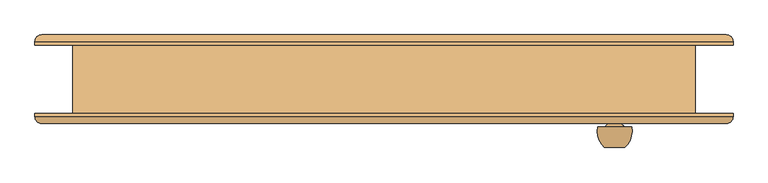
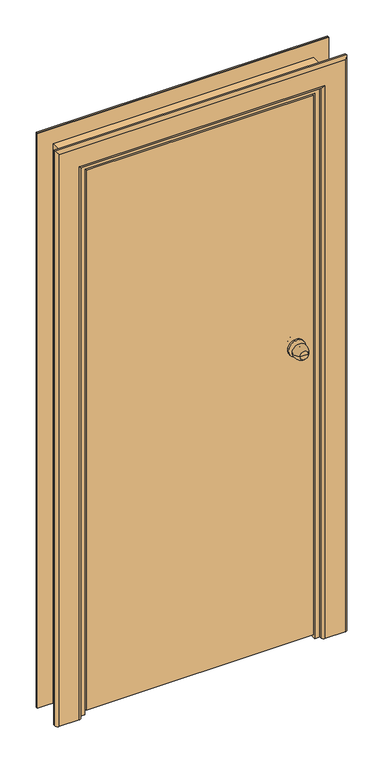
"""IFC4 building model written with IfcOpenShell, lengths in millimetres: door geometry, Внутренняя дверь 1-Навесная - 6629-88 : ДГ 21-9Л  ГОСТ 6629-88."""

import ifcopenshell
import ifcopenshell.guid

model = None  # the IFC model being written
_history = None  # IfcOwnerHistory: only IFC2X3 demands one
_inside = {}  # id of a spatial element -> (the spatial element, [elements in it])
_under = {}  # id of a project, library or spatial element -> (it, [spatial elements below it])
_declared = {}  # id of a project -> (the project, [libraries it declares])
_typed = {}  # id of a type object -> (the type object, [elements of that type])
_made_of = {}  # id of a material, layer set ... -> (it, [elements and type objects made of it])


def new_model(schema):
    """Start an empty IFC model of exactly this schema.

    Asked for "IFC4X3", IfcOpenShell would pick the latest addendum, in which some entities
    have other attributes; the version numbers below select the first issue.
    IFC2X3 requires an IfcOwnerHistory on every rooted entity: one is made here for all.
    """
    global model, _history
    if schema == "IFC4X3":
        model = ifcopenshell.file(schema_version=(4, 3, 0, 0))
    else:
        model = ifcopenshell.file(schema=schema)
    _inside.clear()
    _under.clear()
    _declared.clear()
    _typed.clear()
    _made_of.clear()
    _history = None
    if model.schema == "IFC2X3":
        org = make("IfcOrganization", Name="unknown")
        user = make(
            "IfcPersonAndOrganization",
            ThePerson=make("IfcPerson", FamilyName="unknown"),
            TheOrganization=org,
        )
        app = make(
            "IfcApplication",
            ApplicationDeveloper=org,
            Version="unknown",
            ApplicationFullName="unknown",
            ApplicationIdentifier="unknown",
        )
        _history = make(
            "IfcOwnerHistory",
            OwningUser=user,
            OwningApplication=app,
            ChangeAction="ADDED",
            CreationDate=0,
        )
    return model


def make(cls, **values):
    """One entity of the class cls with the attributes given. An attribute that is None is left unset."""
    return model.create_entity(
        cls, **{name: value for name, value in values.items() if value is not None}
    )


def rooted(cls, **values):
    """An entity with a GlobalId (a new one), such as an element, a storey or a relation."""
    return make(cls, GlobalId=ifcopenshell.guid.new(), OwnerHistory=_history, **values)


def si_unit(unit_type, name, prefix=None):
    """IfcSIUnit, for example si_unit("LENGTHUNIT", "METRE", prefix="MILLI")."""
    return make("IfcSIUnit", UnitType=unit_type, Prefix=prefix, Name=name)


def assignment(units):
    """IfcUnitAssignment: the units of a project."""
    return None if units is None else make("IfcUnitAssignment", Units=units)


def point(xyz):
    """IfcCartesianPoint."""
    return None if xyz is None else make("IfcCartesianPoint", Coordinates=xyz)


def direction(xyz):
    """IfcDirection."""
    return None if xyz is None else make("IfcDirection", DirectionRatios=xyz)


def frame(location, z_axis=None, x_axis=None):
    """IfcAxis2Placement3D, a coordinate frame: its origin and axes. An axis left out is left unset."""
    return make(
        "IfcAxis2Placement3D",
        Location=point(location),
        Axis=direction(z_axis),
        RefDirection=direction(x_axis),
    )


def origin():
    """The frame at (0, 0, 0) with its axes left unset."""
    return frame((0.0, 0.0, 0.0))


def place(relative_to, where):
    """IfcLocalPlacement: puts the frame where relative to a parent placement (None: the world)."""
    return make(
        "IfcLocalPlacement", PlacementRelTo=relative_to, RelativePlacement=where
    )


def context(
    kind, dimensions, precision=None, world=None, true_north=None, identifier=None
):
    """IfcGeometricRepresentationContext, for example the 3D "Model" context."""
    return make(
        "IfcGeometricRepresentationContext",
        ContextIdentifier=identifier,
        ContextType=kind,
        CoordinateSpaceDimension=dimensions,
        Precision=precision,
        WorldCoordinateSystem=world,
        TrueNorth=true_north,
    )


def project(units=None, contexts=None):
    """IfcProject with its units and contexts."""
    return rooted(
        "IfcProject",
        Name="project",
        RepresentationContexts=contexts,
        UnitsInContext=assignment(units),
    )


def spatial(cls, under=None, at=None, **own):
    """A site, building, storey or space (cls), placed at a placement, below another one or the project."""
    s = rooted(cls, ObjectPlacement=at, **own)
    if under is not None:
        _under.setdefault(under.id(), (under, []))[1].append(s)
    return s


def polyline(points):
    """IfcPolyline through the points."""
    return make("IfcPolyline", Points=[point(p) for p in points])


def circle_curve(where, radius):
    """IfcCircle in the frame where."""
    return make("IfcCircle", Position=where, Radius=radius)


def ellipse_curve(where, semi_axis1, semi_axis2):
    """IfcEllipse in the frame where."""
    return make(
        "IfcEllipse", Position=where, SemiAxis1=semi_axis1, SemiAxis2=semi_axis2
    )


def trimmed(basis, trim1, trim2, sense, master):
    """IfcTrimmedCurve: the piece of a basis curve between two trims."""
    return make(
        "IfcTrimmedCurve",
        BasisCurve=basis,
        Trim1=trim1,
        Trim2=trim2,
        SenseAgreement=sense,
        MasterRepresentation=master,
    )


def outline(outer, holes=None, kind="AREA"):
    """IfcArbitraryClosedProfileDef: a profile drawn as a closed curve; with holes, ...WithVoids."""
    if holes is None:
        return make("IfcArbitraryClosedProfileDef", ProfileType=kind, OuterCurve=outer)
    return make(
        "IfcArbitraryProfileDefWithVoids",
        ProfileType=kind,
        OuterCurve=outer,
        InnerCurves=holes,
    )


def extrude(swept, where, along, depth):
    """IfcExtrudedAreaSolid: the profile swept, set in the frame where, extruded along a direction by depth."""
    return make(
        "IfcExtrudedAreaSolid",
        SweptArea=swept,
        Position=where,
        ExtrudedDirection=direction(along),
        Depth=depth,
    )


def faces_of(points, faces, orient=None, outer=None):
    """IfcFace entities. A face is a list of loops; a loop is a list of indices into points, from 0.

    orient and outer hold one flag for each loop. By default every Orientation is true, the
    first loop of a face is its IfcFaceOuterBound and the others are IfcFaceBound.
    """
    made = []
    for i, loops in enumerate(faces):
        bounds = []
        for j, loop in enumerate(loops):
            is_outer = j == 0 if outer is None else outer[i][j]
            bounds.append(
                make(
                    "IfcFaceOuterBound" if is_outer else "IfcFaceBound",
                    Bound=make("IfcPolyLoop", Polygon=[points[k] for k in loop]),
                    Orientation=True if orient is None else orient[i][j],
                )
            )
        made.append(make("IfcFace", Bounds=bounds))
    return made


def faceted_brep(points, faces, orient=None, outer=None, voids=None):
    """IfcFacetedBrep: a solid bounded by flat faces; with voids (closed shells), ...WithVoids."""
    shared = [point(p) for p in points]
    hull = make("IfcClosedShell", CfsFaces=faces_of(shared, faces, orient, outer))
    if voids is None:
        return make("IfcFacetedBrep", Outer=hull)
    return make(
        "IfcFacetedBrepWithVoids",
        Outer=hull,
        Voids=[
            make(cls, CfsFaces=faces_of(shared, fs, o, b)) for cls, fs, o, b in voids
        ],
    )


def shape(context_of_items, identifier, shape_type, items):
    """IfcShapeRepresentation: the items that make up one representation, for example the "Body"."""
    return make(
        "IfcShapeRepresentation",
        ContextOfItems=context_of_items,
        RepresentationIdentifier=identifier,
        RepresentationType=shape_type,
        Items=items,
    )


def source(mapping_origin, context_of_items, identifier, shape_type, items):
    """IfcRepresentationMap: a shape defined once, which mapped items show again and again."""
    return make(
        "IfcRepresentationMap",
        MappingOrigin=mapping_origin,
        MappedRepresentation=shape(context_of_items, identifier, shape_type, items),
    )


def transform(
    local_origin,
    x_axis=None,
    y_axis=None,
    z_axis=None,
    scale=None,
    scale2=None,
    scale3=None,
    uniform=True,
):
    """IfcCartesianTransformationOperator3D, or its non-uniform kind. x_axis, y_axis, z_axis: its Axis1, 2, 3."""
    if uniform:
        return make(
            "IfcCartesianTransformationOperator3D",
            Axis1=direction(x_axis),
            Axis2=direction(y_axis),
            LocalOrigin=point(local_origin),
            Scale=scale,
            Axis3=direction(z_axis),
        )
    return make(
        "IfcCartesianTransformationOperator3DnonUniform",
        Axis1=direction(x_axis),
        Axis2=direction(y_axis),
        LocalOrigin=point(local_origin),
        Scale=scale,
        Axis3=direction(z_axis),
        Scale2=scale2,
        Scale3=scale3,
    )


def mapped(mapping_source, mapping_target):
    """IfcMappedItem: shows the shape of a source again, moved by a transform."""
    return make(
        "IfcMappedItem", MappingSource=mapping_source, MappingTarget=mapping_target
    )


def made_of(thing, what):
    """Note that an element or type object is made of a material, layer set ...; save() writes the relation."""
    if what is not None:
        _made_of.setdefault(what.id(), (what, []))[1].append(thing)
    return thing


def element(
    cls,
    number,
    at=None,
    inside=None,
    cuts=None,
    type_object=None,
    material=None,
    context=None,
    identifier="Body",
    shape_type=None,
    held_by="IfcProductDefinitionShape",
    body=None,
    shapes=None,
    **own,
):
    """One element of the class cls, such as IfcWall. Its Tag is "e" and its number.

    at: its placement. inside: the storey or other place that contains it. cuts: it is an
    opening in that element (IfcRelVoidsElement). A single representation is given by context,
    identifier, shape_type and body (its items); several are given by shapes. held_by: the class
    of the entity that holds the representations. save() writes the other relations.
    """
    e = rooted(cls, Tag="e%d" % number, ObjectPlacement=at, **own)
    if body is not None:
        shapes = [shape(context, identifier, shape_type, body)]
    if shapes is not None:
        e.Representation = make(held_by, Representations=shapes)
    if inside is not None:
        _inside.setdefault(inside.id(), (inside, []))[1].append(e)
    if cuts is not None:
        rooted(
            "IfcRelVoidsElement", RelatingBuildingElement=cuts, RelatedOpeningElement=e
        )
    if type_object is not None:
        _typed.setdefault(type_object.id(), (type_object, []))[1].append(e)
    return made_of(e, material)


def aggregate(whole, parts):
    """IfcRelAggregates: a whole, such as a stair, and the parts it consists of."""
    return rooted("IfcRelAggregates", RelatingObject=whole, RelatedObjects=parts)


def save(model, path):
    """Write the relations noted so far, then the file.

    IfcRelAggregates (storeys below a building ...), IfcRelContainedInSpatialStructure (elements
    in a storey), IfcRelDefinesByType, IfcRelAssociatesMaterial and IfcRelDeclares: one each for
    every whole, place, type object, material and project.
    """
    for whole, parts in _under.values():
        aggregate(whole, parts)
    for where, things in _inside.values():
        rooted(
            "IfcRelContainedInSpatialStructure",
            RelatedElements=things,
            RelatingStructure=where,
        )
    for kind, things in _typed.values():
        rooted("IfcRelDefinesByType", RelatedObjects=things, RelatingType=kind)
    for what, things in _made_of.values():
        rooted("IfcRelAssociatesMaterial", RelatedObjects=things, RelatingMaterial=what)
    for by, libraries in _declared.values():
        rooted("IfcRelDeclares", RelatingContext=by, RelatedDefinitions=libraries)
    model.write(path)


def plane_surface(at):
    """IfcPlane: the flat surface through the origin of the frame at, square to its z axis."""
    return make("IfcPlane", Position=at)


def cylinder_surface(at, radius):
    """IfcCylindricalSurface: all points at the distance radius from the z axis of the frame at."""
    return make("IfcCylindricalSurface", Position=at, Radius=radius)


def revolved_surface(curve, axis_point, axis_direction):
    """IfcSurfaceOfRevolution: the curve turned about the line through axis_point along axis_direction."""
    return make(
        "IfcSurfaceOfRevolution",
        SweptCurve=make("IfcArbitraryOpenProfileDef", ProfileType="CURVE", Curve=curve),
        AxisPosition=make("IfcAxis1Placement", Location=point(axis_point), Axis=direction(axis_direction)),
    )


def advanced_brep(points, edges, surfaces, faces):
    """IfcAdvancedBrep: a solid bounded by faces that lie on surfaces and meet in shared edges.

    An edge is (start, end): straight between two places in points (the first is 0);
    or (start, end, curve); or (start, end, curve, False) where it runs against its curve.
    A face is (place in surfaces, loops), or (place, loops, False) where it looks against
    its surface's normal. A loop lists edges by number (the first is 1), with a minus sign
    where the edge is run from its end to its start. The first loop is the outer one.
    """
    corners = [point(p) for p in points]
    vertices = [make("IfcVertexPoint", VertexGeometry=c) for c in corners]
    made = []
    for start, end, *more in edges:
        made.append(
            make(
                "IfcEdgeCurve",
                EdgeStart=vertices[start],
                EdgeEnd=vertices[end],
                EdgeGeometry=more[0] if more else make("IfcPolyline", Points=[corners[start], corners[end]]),
                SameSense=more[1] if len(more) > 1 else True,
            )
        )
    hull = []
    for where, loops, *sense in faces:
        bounds = []
        for j, loop in enumerate(loops):
            ring = [make("IfcOrientedEdge", EdgeElement=made[abs(k) - 1], Orientation=k > 0) for k in loop]
            bounds.append(
                make(
                    "IfcFaceOuterBound" if j == 0 else "IfcFaceBound",
                    Bound=make("IfcEdgeLoop", EdgeList=ring),
                    Orientation=True,
                )
            )
        hull.append(make("IfcAdvancedFace", Bounds=bounds, FaceSurface=surfaces[where], SameSense=sense[0] if sense else True))
    return make("IfcAdvancedBrep", Outer=make("IfcClosedShell", CfsFaces=hull))


def door_70e842ad(model_context):
    return source(origin(), model_context, "Body", "SolidModel", [
        advanced_brep(
        [(352.0, -100.0, 1100.0), (322.0, -100.0, 1100.0), (337.0, -100.0, 1100.0), (362.0, -70.0, 1100.0), (312.0, -70.0, 1100.0), (355.0, -70.0, 1100.0), (319.0, -70.0, 1100.0), (347.0, -62.0, 1100.0), (327.0, -62.0, 1100.0), (347.0, -56.0, 1100.0), (327.0, -56.0, 1100.0), (307.0, -56.0, 1100.0), (367.0, -56.0, 1100.0), (307.0, -50.0, 1100.0), (367.0, -50.0, 1100.0)],
        [
            (0, 1, circle_curve(frame((337.0, -100.0, 1100.0), z_axis=(0.0, -1.0, 0.0), x_axis=(-1.0, 0.0, 0.0)), 15.0)),
            (1, 2),
            (2, 0),
            (1, 0, circle_curve(frame((337.0, -100.0, 1100.0), z_axis=(0.0, -1.0, 0.0), x_axis=(-1.0, 0.0, 0.0)), 15.0)),
            (0, 3, circle_curve(frame((327.3773735, -75.1257912, 1100.0), z_axis=(0.0, 0.0, 1.0), x_axis=(-1.0, 0.0, 0.0)), 35.0)),
            (3, 4, circle_curve(frame((337.0, -70.0, 1100.0), z_axis=(0.0, -1.0, 0.0), x_axis=(-1.0, 0.0, 0.0)), 25.0)),
            (4, 1, circle_curve(frame((346.6226265, -75.1257912, 1100.0), z_axis=(0.0, 0.0, 1.0), x_axis=(1.0, 0.0, 0.0)), 35.0)),
            (4, 3, circle_curve(frame((337.0, -70.0, 1100.0), z_axis=(0.0, -1.0, 0.0), x_axis=(-1.0, 0.0, 0.0)), 25.0)),
            (3, 5),
            (5, 6, circle_curve(frame((337.0, -70.0, 1100.0), z_axis=(0.0, -1.0, 0.0), x_axis=(-1.0, 0.0, 0.0)), 18.0)),
            (6, 4),
            (6, 5, circle_curve(frame((337.0, -70.0, 1100.0), z_axis=(0.0, -1.0, 0.0), x_axis=(-1.0, 0.0, 0.0)), 18.0)),
            (5, 7, circle_curve(frame((355.0, -62.0, 1100.0), z_axis=(0.0, 0.0, -1.0), x_axis=(-1.0, 0.0, 0.0)), 8.0)),
            (7, 8, circle_curve(frame((337.0, -62.0, 1100.0), z_axis=(0.0, -1.0, 0.0), x_axis=(-1.0, 0.0, 0.0)), 10.0)),
            (8, 6, circle_curve(frame((319.0, -62.0, 1100.0), z_axis=(0.0, 0.0, -1.0), x_axis=(1.0, 0.0, 0.0)), 8.0)),
            (8, 7, circle_curve(frame((337.0, -62.0, 1100.0), z_axis=(0.0, -1.0, 0.0), x_axis=(-1.0, 0.0, 0.0)), 10.0)),
            (7, 9),
            (9, 10, circle_curve(frame((337.0, -56.0, 1100.0), z_axis=(0.0, -1.0, 0.0), x_axis=(-1.0, 0.0, 0.0)), 10.0)),
            (10, 8),
            (10, 9, circle_curve(frame((337.0, -56.0, 1100.0), z_axis=(0.0, -1.0, 0.0), x_axis=(-1.0, 0.0, 0.0)), 10.0)),
            (11, 12, circle_curve(frame((337.0, -56.0, 1100.0), z_axis=(0.0, -1.0, 0.0), x_axis=(1.0, 0.0, 0.0)), 30.0)),
            (12, 11, circle_curve(frame((337.0, -56.0, 1100.0), z_axis=(0.0, -1.0, 0.0), x_axis=(1.0, 0.0, 0.0)), 30.0)),
            (13, 14, circle_curve(frame((337.0, -50.0, 1100.0), z_axis=(0.0, 1.0, 0.0), x_axis=(1.0, 0.0, 0.0)), 30.0)),
            (14, 13, circle_curve(frame((337.0, -50.0, 1100.0), z_axis=(0.0, 1.0, 0.0), x_axis=(1.0, 0.0, 0.0)), 30.0)),
            (11, 13),
            (14, 12),
        ],
        [
            plane_surface(frame((337.0, -100.0, 1100.0), z_axis=(0.0, -1.0, 0.0), x_axis=(-1.0, 0.0, 0.0))),
            revolved_surface(trimmed(ellipse_curve(frame((346.6226265, -75.1257912, 1100.0), z_axis=(0.0, 0.0, -1.0), x_axis=(1.0, 0.0, 0.0)), 35.0, 35.0), [point((322.0, -100.0, 1100.0))], [point((312.0, -70.0, 1100.0))], True, "CARTESIAN"), (337.0, -130.0, 1100.0), (0.0, 1.0, 0.0)),
            plane_surface(frame((337.0, -70.0, 1100.0), z_axis=(0.0, 1.0, 0.0), x_axis=(-1.0, 0.0, 0.0))),
            revolved_surface(trimmed(ellipse_curve(frame((319.0, -62.0, 1100.0), z_axis=(0.0, 0.0, 1.0), x_axis=(1.0, 0.0, 0.0)), 8.0, 8.0), [point((319.0, -70.0, 1100.0))], [point((327.0, -62.0, 1100.0))], True, "CARTESIAN"), (337.0, -130.0, 1100.0), (0.0, 1.0, 0.0)),
            cylinder_surface(frame((337.0, -130.0, 1100.0), z_axis=(0.0, 1.0, 0.0), x_axis=(-1.0, 0.0, 0.0)), 10.0),
            plane_surface(frame((367.0, -56.0, 1100.0), z_axis=(0.0, -1.0, 0.0), x_axis=(0.0, 0.0, 1.0))),
            plane_surface(frame((367.0, -50.0, 1100.0), z_axis=(0.0, 1.0, 0.0), x_axis=(0.0, 0.0, -1.0))),
            cylinder_surface(frame((337.0, -50.0, 1100.0), z_axis=(0.0, -1.0, 0.0), x_axis=(1.0, 0.0, 0.0)), 30.0),
        ],
        [
            (0, [[1, 2, 3]]),
            (0, [[-2, 4, -3]]),
            (1, [[-1, 5, 6, 7]]),
            (1, [[-4, -7, 8, -5]]),
            (2, [[-6, 9, 10, 11]]),
            (2, [[-8, -11, 12, -9]]),
            (3, [[-10, 13, 14, 15]]),
            (3, [[-12, -15, 16, -13]]),
            (4, [[-14, 17, 18, 19]]),
            (4, [[-16, -19, 20, -17]]),
            (5, [[21, 22], [-18, -20]]),
            (6, [[23, 24]]),
            (7, [[-21, 25, -24, 26]]),
            (7, [[-22, -26, -23, -25]]),
        ],
    ),
        advanced_brep(
        [(322.0, 37.0, 1100.0), (352.0, 37.0, 1100.0), (337.0, 37.0, 1100.0), (312.0, 7.0, 1100.0), (362.0, 7.0, 1100.0), (319.0, 7.0, 1100.0), (355.0, 7.0, 1100.0), (327.0, -1.0, 1100.0), (347.0, -1.0, 1100.0), (327.0, -7.0, 1100.0), (347.0, -7.0, 1100.0), (367.0, -7.0, 1100.0), (307.0, -7.0, 1100.0), (367.0, -13.0, 1100.0), (307.0, -13.0, 1100.0)],
        [
            (0, 1, circle_curve(frame((337.0, 37.0, 1100.0), z_axis=(0.0, 1.0, 0.0), x_axis=(1.0, 0.0, 0.0)), 15.0)),
            (1, 2),
            (2, 0),
            (1, 0, circle_curve(frame((337.0, 37.0, 1100.0), z_axis=(0.0, 1.0, 0.0), x_axis=(1.0, 0.0, 0.0)), 15.0)),
            (0, 3, circle_curve(frame((346.6226265, 12.1257912, 1100.0), z_axis=(0.0, 0.0, 1.0), x_axis=(1.0, 0.0, 0.0)), 35.0)),
            (3, 4, circle_curve(frame((337.0, 7.0, 1100.0), z_axis=(0.0, 1.0, 0.0), x_axis=(1.0, 0.0, 0.0)), 25.0)),
            (4, 1, circle_curve(frame((327.3773735, 12.1257912, 1100.0), z_axis=(0.0, 0.0, 1.0), x_axis=(-1.0, 0.0, 0.0)), 35.0)),
            (4, 3, circle_curve(frame((337.0, 7.0, 1100.0), z_axis=(0.0, 1.0, 0.0), x_axis=(1.0, 0.0, 0.0)), 25.0)),
            (3, 5),
            (5, 6, circle_curve(frame((337.0, 7.0, 1100.0), z_axis=(0.0, 1.0, 0.0), x_axis=(1.0, 0.0, 0.0)), 18.0)),
            (6, 4),
            (6, 5, circle_curve(frame((337.0, 7.0, 1100.0), z_axis=(0.0, 1.0, 0.0), x_axis=(1.0, 0.0, 0.0)), 18.0)),
            (5, 7, circle_curve(frame((319.0, -1.0, 1100.0), z_axis=(0.0, 0.0, -1.0), x_axis=(1.0, 0.0, 0.0)), 8.0)),
            (7, 8, circle_curve(frame((337.0, -1.0, 1100.0), z_axis=(0.0, 1.0, 0.0), x_axis=(1.0, 0.0, 0.0)), 10.0)),
            (8, 6, circle_curve(frame((355.0, -1.0, 1100.0), z_axis=(0.0, 0.0, -1.0), x_axis=(-1.0, 0.0, 0.0)), 8.0)),
            (8, 7, circle_curve(frame((337.0, -1.0, 1100.0), z_axis=(0.0, 1.0, 0.0), x_axis=(1.0, 0.0, 0.0)), 10.0)),
            (7, 9),
            (9, 10, circle_curve(frame((337.0, -7.0, 1100.0), z_axis=(0.0, 1.0, 0.0), x_axis=(1.0, 0.0, 0.0)), 10.0)),
            (10, 8),
            (10, 9, circle_curve(frame((337.0, -7.0, 1100.0), z_axis=(0.0, 1.0, 0.0), x_axis=(1.0, 0.0, 0.0)), 10.0)),
            (11, 12, circle_curve(frame((337.0, -7.0, 1100.0), z_axis=(0.0, 1.0, 0.0), x_axis=(-1.0, 0.0, 0.0)), 30.0)),
            (12, 11, circle_curve(frame((337.0, -7.0, 1100.0), z_axis=(0.0, 1.0, 0.0), x_axis=(-1.0, 0.0, 0.0)), 30.0)),
            (13, 14, circle_curve(frame((337.0, -13.0, 1100.0), z_axis=(0.0, -1.0, 0.0), x_axis=(-1.0, 0.0, 0.0)), 30.0)),
            (14, 13, circle_curve(frame((337.0, -13.0, 1100.0), z_axis=(0.0, -1.0, 0.0), x_axis=(-1.0, 0.0, 0.0)), 30.0)),
            (11, 13),
            (14, 12),
        ],
        [
            plane_surface(frame((337.0, 37.0, 1100.0), z_axis=(0.0, 1.0, 0.0), x_axis=(1.0, 0.0, 0.0))),
            revolved_surface(trimmed(ellipse_curve(frame((327.3773735, 12.1257912, 1100.0), z_axis=(0.0, 0.0, -1.0), x_axis=(-1.0, 0.0, 0.0)), 35.0, 35.0), [point((352.0, 37.0, 1100.0))], [point((362.0, 7.0, 1100.0))], True, "CARTESIAN"), (337.0, 67.0, 1100.0), (0.0, -1.0, 0.0)),
            plane_surface(frame((337.0, 7.0, 1100.0), z_axis=(0.0, -1.0, 0.0), x_axis=(1.0, 0.0, 0.0))),
            revolved_surface(trimmed(ellipse_curve(frame((355.0, -1.0, 1100.0), z_axis=(0.0, 0.0, 1.0), x_axis=(-1.0, 0.0, 0.0)), 8.0, 8.0), [point((355.0, 7.0, 1100.0))], [point((347.0, -1.0, 1100.0))], True, "CARTESIAN"), (337.0, 67.0, 1100.0), (0.0, -1.0, 0.0)),
            cylinder_surface(frame((337.0, 67.0, 1100.0), z_axis=(0.0, -1.0, 0.0), x_axis=(1.0, 0.0, 0.0)), 10.0),
            plane_surface(frame((307.0, -7.0, 1100.0), z_axis=(0.0, 1.0, 0.0), x_axis=(0.0, 0.0, 1.0))),
            plane_surface(frame((307.0, -13.0, 1100.0), z_axis=(0.0, -1.0, 0.0), x_axis=(0.0, 0.0, -1.0))),
            cylinder_surface(frame((337.0, -13.0, 1100.0), z_axis=(0.0, 1.0, 0.0), x_axis=(-1.0, 0.0, 0.0)), 30.0),
        ],
        [
            (0, [[1, 2, 3]]),
            (0, [[-2, 4, -3]]),
            (1, [[-1, 5, 6, 7]]),
            (1, [[-4, -7, 8, -5]]),
            (2, [[-6, 9, 10, 11]]),
            (2, [[-8, -11, 12, -9]]),
            (3, [[-10, 13, 14, 15]]),
            (3, [[-12, -15, 16, -13]]),
            (4, [[-14, 17, 18, 19]]),
            (4, [[-16, -19, 20, -17]]),
            (5, [[21, 22], [-18, -20]]),
            (6, [[23, 24]]),
            (7, [[-21, 25, -24, 26]]),
            (7, [[-22, -26, -23, -25]]),
        ],
    ),
        extrude(outline(polyline([(0.0, 420.0), (0.0, 435.0), (2050.0, 435.0), (2050.0, -435.0), (0.0, -435.0), (0.0, -420.0), (2035.0, -420.0), (2035.0, 420.0), (0.0, 420.0)])), frame((0.0, 24.0, 0.0), z_axis=(0.0, 1.0, 0.0), x_axis=(0.0, 0.0, 1.0)), (0.0, 0.0, 1.0), 26.0),
        advanced_brep(
        [(-510.0, -50.0, 0.0), (-420.0, -50.0, 0.0), (-420.0, -55.0, 0.0), (-430.0, -65.0, 0.0), (-500.0, -65.0, 0.0), (-510.0, -55.0, 0.0), (-510.0, -50.0, 2125.0), (510.0, -50.0, 2125.0), (510.0, -50.0, 0.0), (420.0, -50.0, 0.0), (420.0, -50.0, 2035.0), (-420.0, -50.0, 2035.0), (-420.0, -55.0, 2035.0), (-430.0, -65.0, 2045.0), (430.0, -65.0, 2045.0), (430.0, -65.0, 0.0), (500.0, -65.0, 0.0), (500.0, -65.0, 2115.0), (-500.0, -65.0, 2115.0), (-510.0, -55.0, 2125.0), (510.0, -55.0, 2125.0), (510.0, -55.0, 0.0), (420.0, -55.0, 0.0), (420.0, -55.0, 2035.0)],
        [
            (0, 1),
            (1, 2),
            (2, 3, circle_curve(frame((-430.0, -55.0, 0.0), z_axis=(0.0, 0.0, -1.0), x_axis=(-1.0, 0.0, 0.0)), 10.0)),
            (3, 4),
            (4, 5, circle_curve(frame((-500.0, -55.0, 0.0), z_axis=(0.0, 0.0, -1.0), x_axis=(-1.0, 0.0, 0.0)), 10.0)),
            (5, 0),
            (0, 6),
            (6, 7),
            (7, 8),
            (8, 9),
            (9, 10),
            (10, 11),
            (11, 1),
            (11, 12),
            (12, 2),
            (12, 13, ellipse_curve(frame((-430.0, -55.0, 2045.0), z_axis=(-0.7071067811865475, 0.0, -0.7071067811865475), x_axis=(0.7071067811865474, 0.0, -0.7071067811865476)), 14.1421356, 10.0)),
            (13, 3),
            (13, 14),
            (14, 15),
            (15, 16),
            (16, 17),
            (17, 18),
            (18, 4),
            (18, 19, ellipse_curve(frame((-500.0, -55.0, 2115.0), z_axis=(-0.7071067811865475, 0.0, -0.7071067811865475), x_axis=(0.7071067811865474, 0.0, -0.7071067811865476)), 14.1421356, 10.0)),
            (19, 5),
            (19, 6),
            (7, 20),
            (20, 21),
            (21, 8),
            (21, 16, circle_curve(frame((500.0, -55.0, 0.0), z_axis=(0.0, 0.0, -1.0), x_axis=(1.0, 0.0, 0.0)), 10.0)),
            (15, 22, circle_curve(frame((430.0, -55.0, 0.0), z_axis=(0.0, 0.0, -1.0), x_axis=(1.0, 0.0, 0.0)), 10.0)),
            (22, 9),
            (23, 10),
            (22, 23),
            (14, 23, ellipse_curve(frame((430.0, -55.0, 2045.0), z_axis=(0.7071067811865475, 0.0, -0.7071067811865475), x_axis=(0.7071067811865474, 0.0, 0.7071067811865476)), 14.1421356, 10.0)),
            (20, 17, ellipse_curve(frame((500.0, -55.0, 2115.0), z_axis=(0.7071067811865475, 0.0, -0.7071067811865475), x_axis=(0.7071067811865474, 0.0, 0.7071067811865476)), 14.1421356, 10.0)),
            (23, 12),
            (20, 19),
        ],
        [
            plane_surface(frame((-455.0, -50.0, 0.0), z_axis=(0.0, 0.0, -1.0), x_axis=(0.0, 1.0, 0.0))),
            plane_surface(frame((-510.0, -50.0, 0.0), z_axis=(0.0, 1.0, 0.0), x_axis=(0.0, 0.0, 1.0))),
            plane_surface(frame((-420.0, -50.0, 0.0), z_axis=(1.0, 0.0, 0.0), x_axis=(0.0, 0.0, 1.0))),
            cylinder_surface(frame((-430.0, -55.0, 0.0), z_axis=(0.0, 0.0, -1.0), x_axis=(-1.0, 0.0, 0.0)), 10.0),
            plane_surface(frame((-430.0, -65.0, 0.0), z_axis=(0.0, -1.0, 0.0), x_axis=(0.0, 0.0, 1.0))),
            cylinder_surface(frame((-500.0, -55.0, 0.0), z_axis=(0.0, 0.0, -1.0), x_axis=(-1.0, 0.0, 0.0)), 10.0),
            plane_surface(frame((-510.0, -55.0, 0.0), z_axis=(-1.0, 0.0, 0.0), x_axis=(0.0, 0.0, 1.0))),
            plane_surface(frame((510.0, -55.0, 2125.0), z_axis=(1.0, 0.0, 0.0), x_axis=(0.0, 0.0, -1.0))),
            plane_surface(frame((455.0, -50.0, 0.0), z_axis=(0.0, 0.0, -1.0), x_axis=(0.0, 1.0, 0.0))),
            plane_surface(frame((420.0, -50.0, 2035.0), z_axis=(-1.0, 0.0, 0.0), x_axis=(0.0, 0.0, -1.0))),
            cylinder_surface(frame((430.0, -55.0, 2070.0), z_axis=(0.0, 0.0, 1.0), x_axis=(1.0, 0.0, 0.0)), 10.0),
            cylinder_surface(frame((500.0, -55.0, 2070.0), z_axis=(0.0, 0.0, 1.0), x_axis=(1.0, 0.0, 0.0)), 10.0),
            plane_surface(frame((-420.0, -50.0, 2035.0), z_axis=(0.0, 0.0, -1.0), x_axis=(1.0, 0.0, 0.0))),
            cylinder_surface(frame((-455.0, -55.0, 2045.0), z_axis=(-1.0, 0.0, 0.0), x_axis=(0.0, 0.0, 1.0)), 10.0),
            cylinder_surface(frame((-455.0, -55.0, 2115.0), z_axis=(-1.0, 0.0, 0.0), x_axis=(0.0, 0.0, 1.0)), 10.0),
            plane_surface(frame((-510.0, -55.0, 2125.0), z_axis=(0.0, 0.0, 1.0), x_axis=(1.0, 0.0, 0.0))),
        ],
        [
            (0, [[1, 2, 3, 4, 5, 6]]),
            (1, [[-1, 7, 8, 9, 10, 11, 12, 13]]),
            (2, [[-2, -13, 14, 15]]),
            (3, [[-3, -15, 16, 17]]),
            (4, [[-4, -17, 18, 19, 20, 21, 22, 23]]),
            (5, [[-5, -23, 24, 25]]),
            (6, [[-6, -25, 26, -7]]),
            (7, [[27, 28, 29, -9]]),
            (8, [[-29, 30, -20, 31, 32, -10]]),
            (9, [[33, -11, -32, 34]]),
            (10, [[35, -34, -31, -19]]),
            (11, [[36, -21, -30, -28]]),
            (12, [[-14, -12, -33, 37]]),
            (13, [[-16, -37, -35, -18]]),
            (14, [[-24, -22, -36, 38]]),
            (15, [[-26, -38, -27, -8]]),
        ],
    ),
        advanced_brep(
        [(510.0, 50.0, 0.0), (420.0, 50.0, 0.0), (420.0, 55.0, 0.0), (430.0, 65.0, 0.0), (500.0, 65.0, 0.0), (510.0, 55.0, 0.0), (510.0, 50.0, 2125.0), (-510.0, 50.0, 2125.0), (-510.0, 50.0, 0.0), (-420.0, 50.0, 0.0), (-420.0, 50.0, 2035.0), (420.0, 50.0, 2035.0), (420.0, 55.0, 2035.0), (430.0, 65.0, 2045.0), (-430.0, 65.0, 2045.0), (-430.0, 65.0, 0.0), (-500.0, 65.0, 0.0), (-500.0, 65.0, 2115.0), (500.0, 65.0, 2115.0), (510.0, 55.0, 2125.0), (-510.0, 55.0, 2125.0), (-510.0, 55.0, 0.0), (-420.0, 55.0, 0.0), (-420.0, 55.0, 2035.0)],
        [
            (0, 1),
            (1, 2),
            (2, 3, circle_curve(frame((430.0, 55.0, 0.0), z_axis=(0.0, 0.0, -1.0), x_axis=(1.0, 0.0, 0.0)), 10.0)),
            (3, 4),
            (4, 5, circle_curve(frame((500.0, 55.0, 0.0), z_axis=(0.0, 0.0, -1.0), x_axis=(1.0, 0.0, 0.0)), 10.0)),
            (5, 0),
            (0, 6),
            (6, 7),
            (7, 8),
            (8, 9),
            (9, 10),
            (10, 11),
            (11, 1),
            (11, 12),
            (12, 2),
            (12, 13, ellipse_curve(frame((430.0, 55.0, 2045.0), z_axis=(0.7071067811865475, 0.0, -0.7071067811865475), x_axis=(-0.7071067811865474, 0.0, -0.7071067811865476)), 14.1421356, 10.0)),
            (13, 3),
            (13, 14),
            (14, 15),
            (15, 16),
            (16, 17),
            (17, 18),
            (18, 4),
            (18, 19, ellipse_curve(frame((500.0, 55.0, 2115.0), z_axis=(0.7071067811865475, 0.0, -0.7071067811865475), x_axis=(-0.7071067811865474, 0.0, -0.7071067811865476)), 14.1421356, 10.0)),
            (19, 5),
            (19, 6),
            (7, 20),
            (20, 21),
            (21, 8),
            (21, 16, circle_curve(frame((-500.0, 55.0, 0.0), z_axis=(0.0, 0.0, -1.0), x_axis=(-1.0, 0.0, 0.0)), 10.0)),
            (15, 22, circle_curve(frame((-430.0, 55.0, 0.0), z_axis=(0.0, 0.0, -1.0), x_axis=(-1.0, 0.0, 0.0)), 10.0)),
            (22, 9),
            (23, 10),
            (22, 23),
            (14, 23, ellipse_curve(frame((-430.0, 55.0, 2045.0), z_axis=(-0.7071067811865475, 0.0, -0.7071067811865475), x_axis=(-0.7071067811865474, 0.0, 0.7071067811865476)), 14.1421356, 10.0)),
            (20, 17, ellipse_curve(frame((-500.0, 55.0, 2115.0), z_axis=(-0.7071067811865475, 0.0, -0.7071067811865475), x_axis=(-0.7071067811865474, 0.0, 0.7071067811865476)), 14.1421356, 10.0)),
            (23, 12),
            (20, 19),
        ],
        [
            plane_surface(frame((455.0, 50.0, 0.0), z_axis=(0.0, 0.0, -1.0), x_axis=(0.0, -1.0, 0.0))),
            plane_surface(frame((510.0, 50.0, 0.0), z_axis=(0.0, -1.0, 0.0), x_axis=(0.0, 0.0, 1.0))),
            plane_surface(frame((420.0, 50.0, 0.0), z_axis=(-1.0, 0.0, 0.0), x_axis=(0.0, 0.0, 1.0))),
            cylinder_surface(frame((430.0, 55.0, 0.0), z_axis=(0.0, 0.0, -1.0), x_axis=(1.0, 0.0, 0.0)), 10.0),
            plane_surface(frame((430.0, 65.0, 0.0), z_axis=(0.0, 1.0, 0.0), x_axis=(0.0, 0.0, 1.0))),
            cylinder_surface(frame((500.0, 55.0, 0.0), z_axis=(0.0, 0.0, -1.0), x_axis=(1.0, 0.0, 0.0)), 10.0),
            plane_surface(frame((510.0, 55.0, 0.0), z_axis=(1.0, 0.0, 0.0), x_axis=(0.0, 0.0, 1.0))),
            plane_surface(frame((-510.0, 55.0, 2125.0), z_axis=(-1.0, 0.0, 0.0), x_axis=(0.0, 0.0, -1.0))),
            plane_surface(frame((-455.0, 50.0, 0.0), z_axis=(0.0, 0.0, -1.0), x_axis=(0.0, -1.0, 0.0))),
            plane_surface(frame((-420.0, 50.0, 2035.0), z_axis=(1.0, 0.0, 0.0), x_axis=(0.0, 0.0, -1.0))),
            cylinder_surface(frame((-430.0, 55.0, 2070.0), z_axis=(0.0, 0.0, 1.0), x_axis=(-1.0, 0.0, 0.0)), 10.0),
            cylinder_surface(frame((-500.0, 55.0, 2070.0), z_axis=(0.0, 0.0, 1.0), x_axis=(-1.0, 0.0, 0.0)), 10.0),
            plane_surface(frame((420.0, 50.0, 2035.0), z_axis=(0.0, 0.0, -1.0), x_axis=(-1.0, 0.0, 0.0))),
            cylinder_surface(frame((455.0, 55.0, 2045.0), z_axis=(1.0, 0.0, 0.0), x_axis=(0.0, 0.0, 1.0)), 10.0),
            cylinder_surface(frame((455.0, 55.0, 2115.0), z_axis=(1.0, 0.0, 0.0), x_axis=(0.0, 0.0, 1.0)), 10.0),
            plane_surface(frame((510.0, 55.0, 2125.0), z_axis=(0.0, 0.0, 1.0), x_axis=(-1.0, 0.0, 0.0))),
        ],
        [
            (0, [[1, 2, 3, 4, 5, 6]]),
            (1, [[-1, 7, 8, 9, 10, 11, 12, 13]]),
            (2, [[-2, -13, 14, 15]]),
            (3, [[-3, -15, 16, 17]]),
            (4, [[-4, -17, 18, 19, 20, 21, 22, 23]]),
            (5, [[-5, -23, 24, 25]]),
            (6, [[-6, -25, 26, -7]]),
            (7, [[27, 28, 29, -9]]),
            (8, [[-29, 30, -20, 31, 32, -10]]),
            (9, [[33, -11, -32, 34]]),
            (10, [[35, -34, -31, -19]]),
            (11, [[36, -21, -30, -28]]),
            (12, [[-14, -12, -33, 37]]),
            (13, [[-16, -37, -35, -18]]),
            (14, [[-24, -22, -36, 38]]),
            (15, [[-26, -38, -27, -8]]),
        ],
    ),
        faceted_brep([(390.0, 24.0, 0.0), (435.0, 24.0, 0.0), (435.0, -50.0, 0.0), (402.0, -50.0, 0.0), (402.0, -8.0, 0.0), (390.0, -8.0, 0.0), (390.0, 24.0, 2005.0), (-390.0, 24.0, 2005.0), (-390.0, 24.0, 0.0), (-435.0, 24.0, 0.0), (-435.0, 24.0, 2050.0), (435.0, 24.0, 2050.0), (435.0, -50.0, 2050.0), (-435.0, -50.0, 2050.0), (-435.0, -50.0, 0.0), (-402.0, -50.0, 0.0), (-402.0, -50.0, 2017.0), (402.0, -50.0, 2017.0), (402.0, -8.0, 2017.0), (-402.0, -8.0, 2017.0), (-402.0, -8.0, 0.0), (-390.0, -8.0, 0.0), (-390.0, -8.0, 2005.0), (390.0, -8.0, 2005.0)], [[[0, 1, 2, 3, 4, 5]], [[1, 0, 6, 7, 8, 9, 10, 11]], [[2, 1, 11, 12]], [[3, 2, 12, 13, 14, 15, 16, 17]], [[4, 3, 17, 18]], [[5, 4, 18, 19, 20, 21, 22, 23]], [[0, 5, 23, 6]], [[7, 22, 21, 8]], [[8, 21, 20, 15, 14, 9]], [[13, 10, 9, 14]], [[19, 16, 15, 20]], [[12, 11, 10, 13]], [[18, 17, 16, 19]], [[6, 23, 22, 7]]]),
        extrude(outline(polyline([(0.0, 435.0), (0.0, 455.0), (2070.0, 455.0), (2070.0, -455.0), (0.0, -455.0), (0.0, -435.0), (2050.0, -435.0), (2050.0, 435.0), (0.0, 435.0)])), frame((0.0, -50.0, 0.0), z_axis=(0.0, 1.0, 0.0), x_axis=(0.0, 0.0, 1.0)), (0.0, 0.0, 1.0), 100.0),
        extrude(outline(polyline([(397.0, -13.0), (397.0, -50.0), (-397.0, -50.0), (-397.0, -13.0), (397.0, -13.0)])), frame((0.0, 0.0, 15.0), z_axis=(0.0, 0.0, 1.0), x_axis=(1.0, 0.0, 0.0)), (0.0, 0.0, 1.0), 1997.0),
    ])


if __name__ == "__main__":
    model = new_model("IFC4")
    model_context = context("Model", 3, world=origin())
    ifc_project = project(units=[si_unit("LENGTHUNIT", "METRE", prefix="MILLI")], contexts=[model_context])
    site = spatial("IfcSite", under=ifc_project)
    building = spatial("IfcBuilding", under=site)
    placement = place(None, origin())
    door_shape = door_70e842ad(model_context)
    element("IfcDoor", 1, ObjectType="Внутренняя дверь 1-Навесная - 6629-88 : ДГ 21-9Л  ГОСТ 6629-88", at=placement, inside=building, context=model_context, shape_type="MappedRepresentation", body=[
        mapped(door_shape, transform((0.0, 0.0, 0.0), x_axis=(1.0, 0.0, 0.0), y_axis=(0.0, 1.0, 0.0), z_axis=(0.0, 0.0, 1.0))),
    ])
    save(model, "model.ifc")
